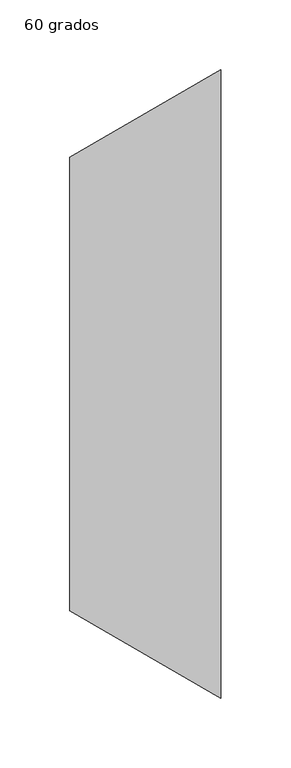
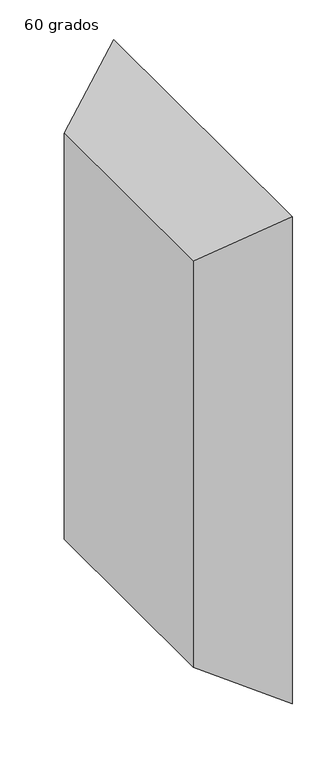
"""IFC4 building model written with IfcOpenShell, lengths in millimetres: duct fitting geometry, M_Transición rectangular - Ángulo : 60 grados."""

import ifcopenshell
import ifcopenshell.guid

model = None  # the IFC model being written
_history = None  # IfcOwnerHistory: only IFC2X3 demands one
_inside = {}  # id of a spatial element -> (the spatial element, [elements in it])
_under = {}  # id of a project, library or spatial element -> (it, [spatial elements below it])
_declared = {}  # id of a project -> (the project, [libraries it declares])
_typed = {}  # id of a type object -> (the type object, [elements of that type])
_made_of = {}  # id of a material, layer set ... -> (it, [elements and type objects made of it])


def new_model(schema):
    """Start an empty IFC model of exactly this schema.

    Asked for "IFC4X3", IfcOpenShell would pick the latest addendum, in which some entities
    have other attributes; the version numbers below select the first issue.
    IFC2X3 requires an IfcOwnerHistory on every rooted entity: one is made here for all.
    """
    global model, _history
    if schema == "IFC4X3":
        model = ifcopenshell.file(schema_version=(4, 3, 0, 0))
    else:
        model = ifcopenshell.file(schema=schema)
    _inside.clear()
    _under.clear()
    _declared.clear()
    _typed.clear()
    _made_of.clear()
    _history = None
    if model.schema == "IFC2X3":
        org = make("IfcOrganization", Name="unknown")
        user = make(
            "IfcPersonAndOrganization",
            ThePerson=make("IfcPerson", FamilyName="unknown"),
            TheOrganization=org,
        )
        app = make(
            "IfcApplication",
            ApplicationDeveloper=org,
            Version="unknown",
            ApplicationFullName="unknown",
            ApplicationIdentifier="unknown",
        )
        _history = make(
            "IfcOwnerHistory",
            OwningUser=user,
            OwningApplication=app,
            ChangeAction="ADDED",
            CreationDate=0,
        )
    return model


def make(cls, **values):
    """One entity of the class cls with the attributes given. An attribute that is None is left unset."""
    return model.create_entity(
        cls, **{name: value for name, value in values.items() if value is not None}
    )


def rooted(cls, **values):
    """An entity with a GlobalId (a new one), such as an element, a storey or a relation."""
    return make(cls, GlobalId=ifcopenshell.guid.new(), OwnerHistory=_history, **values)


def si_unit(unit_type, name, prefix=None):
    """IfcSIUnit, for example si_unit("LENGTHUNIT", "METRE", prefix="MILLI")."""
    return make("IfcSIUnit", UnitType=unit_type, Prefix=prefix, Name=name)


def assignment(units):
    """IfcUnitAssignment: the units of a project."""
    return None if units is None else make("IfcUnitAssignment", Units=units)


def point(xyz):
    """IfcCartesianPoint."""
    return None if xyz is None else make("IfcCartesianPoint", Coordinates=xyz)


def direction(xyz):
    """IfcDirection."""
    return None if xyz is None else make("IfcDirection", DirectionRatios=xyz)


def frame(location, z_axis=None, x_axis=None):
    """IfcAxis2Placement3D, a coordinate frame: its origin and axes. An axis left out is left unset."""
    return make(
        "IfcAxis2Placement3D",
        Location=point(location),
        Axis=direction(z_axis),
        RefDirection=direction(x_axis),
    )


def origin():
    """The frame at (0, 0, 0) with its axes left unset."""
    return frame((0.0, 0.0, 0.0))


def place(relative_to, where):
    """IfcLocalPlacement: puts the frame where relative to a parent placement (None: the world)."""
    return make(
        "IfcLocalPlacement", PlacementRelTo=relative_to, RelativePlacement=where
    )


def context(
    kind, dimensions, precision=None, world=None, true_north=None, identifier=None
):
    """IfcGeometricRepresentationContext, for example the 3D "Model" context."""
    return make(
        "IfcGeometricRepresentationContext",
        ContextIdentifier=identifier,
        ContextType=kind,
        CoordinateSpaceDimension=dimensions,
        Precision=precision,
        WorldCoordinateSystem=world,
        TrueNorth=true_north,
    )


def project(units=None, contexts=None):
    """IfcProject with its units and contexts."""
    return rooted(
        "IfcProject",
        Name="project",
        RepresentationContexts=contexts,
        UnitsInContext=assignment(units),
    )


def spatial(cls, under=None, at=None, **own):
    """A site, building, storey or space (cls), placed at a placement, below another one or the project."""
    s = rooted(cls, ObjectPlacement=at, **own)
    if under is not None:
        _under.setdefault(under.id(), (under, []))[1].append(s)
    return s


def faces_of(points, faces, orient=None, outer=None):
    """IfcFace entities. A face is a list of loops; a loop is a list of indices into points, from 0.

    orient and outer hold one flag for each loop. By default every Orientation is true, the
    first loop of a face is its IfcFaceOuterBound and the others are IfcFaceBound.
    """
    made = []
    for i, loops in enumerate(faces):
        bounds = []
        for j, loop in enumerate(loops):
            is_outer = j == 0 if outer is None else outer[i][j]
            bounds.append(
                make(
                    "IfcFaceOuterBound" if is_outer else "IfcFaceBound",
                    Bound=make("IfcPolyLoop", Polygon=[points[k] for k in loop]),
                    Orientation=True if orient is None else orient[i][j],
                )
            )
        made.append(make("IfcFace", Bounds=bounds))
    return made


def faceted_brep(points, faces, orient=None, outer=None, voids=None):
    """IfcFacetedBrep: a solid bounded by flat faces; with voids (closed shells), ...WithVoids."""
    shared = [point(p) for p in points]
    hull = make("IfcClosedShell", CfsFaces=faces_of(shared, faces, orient, outer))
    if voids is None:
        return make("IfcFacetedBrep", Outer=hull)
    return make(
        "IfcFacetedBrepWithVoids",
        Outer=hull,
        Voids=[
            make(cls, CfsFaces=faces_of(shared, fs, o, b)) for cls, fs, o, b in voids
        ],
    )


def shape(context_of_items, identifier, shape_type, items):
    """IfcShapeRepresentation: the items that make up one representation, for example the "Body"."""
    return make(
        "IfcShapeRepresentation",
        ContextOfItems=context_of_items,
        RepresentationIdentifier=identifier,
        RepresentationType=shape_type,
        Items=items,
    )


def source(mapping_origin, context_of_items, identifier, shape_type, items):
    """IfcRepresentationMap: a shape defined once, which mapped items show again and again."""
    return make(
        "IfcRepresentationMap",
        MappingOrigin=mapping_origin,
        MappedRepresentation=shape(context_of_items, identifier, shape_type, items),
    )


def transform(
    local_origin,
    x_axis=None,
    y_axis=None,
    z_axis=None,
    scale=None,
    scale2=None,
    scale3=None,
    uniform=True,
):
    """IfcCartesianTransformationOperator3D, or its non-uniform kind. x_axis, y_axis, z_axis: its Axis1, 2, 3."""
    if uniform:
        return make(
            "IfcCartesianTransformationOperator3D",
            Axis1=direction(x_axis),
            Axis2=direction(y_axis),
            LocalOrigin=point(local_origin),
            Scale=scale,
            Axis3=direction(z_axis),
        )
    return make(
        "IfcCartesianTransformationOperator3DnonUniform",
        Axis1=direction(x_axis),
        Axis2=direction(y_axis),
        LocalOrigin=point(local_origin),
        Scale=scale,
        Axis3=direction(z_axis),
        Scale2=scale2,
        Scale3=scale3,
    )


def mapped(mapping_source, mapping_target):
    """IfcMappedItem: shows the shape of a source again, moved by a transform."""
    return make(
        "IfcMappedItem", MappingSource=mapping_source, MappingTarget=mapping_target
    )


def made_of(thing, what):
    """Note that an element or type object is made of a material, layer set ...; save() writes the relation."""
    if what is not None:
        _made_of.setdefault(what.id(), (what, []))[1].append(thing)
    return thing


def element(
    cls,
    number,
    at=None,
    inside=None,
    cuts=None,
    type_object=None,
    material=None,
    context=None,
    identifier="Body",
    shape_type=None,
    held_by="IfcProductDefinitionShape",
    body=None,
    shapes=None,
    **own,
):
    """One element of the class cls, such as IfcWall. Its Tag is "e" and its number.

    at: its placement. inside: the storey or other place that contains it. cuts: it is an
    opening in that element (IfcRelVoidsElement). A single representation is given by context,
    identifier, shape_type and body (its items); several are given by shapes. held_by: the class
    of the entity that holds the representations. save() writes the other relations.
    """
    e = rooted(cls, Tag="e%d" % number, ObjectPlacement=at, **own)
    if body is not None:
        shapes = [shape(context, identifier, shape_type, body)]
    if shapes is not None:
        e.Representation = make(held_by, Representations=shapes)
    if inside is not None:
        _inside.setdefault(inside.id(), (inside, []))[1].append(e)
    if cuts is not None:
        rooted(
            "IfcRelVoidsElement", RelatingBuildingElement=cuts, RelatedOpeningElement=e
        )
    if type_object is not None:
        _typed.setdefault(type_object.id(), (type_object, []))[1].append(e)
    return made_of(e, material)


def aggregate(whole, parts):
    """IfcRelAggregates: a whole, such as a stair, and the parts it consists of."""
    return rooted("IfcRelAggregates", RelatingObject=whole, RelatedObjects=parts)


def save(model, path):
    """Write the relations noted so far, then the file.

    IfcRelAggregates (storeys below a building ...), IfcRelContainedInSpatialStructure (elements
    in a storey), IfcRelDefinesByType, IfcRelAssociatesMaterial and IfcRelDeclares: one each for
    every whole, place, type object, material and project.
    """
    for whole, parts in _under.values():
        aggregate(whole, parts)
    for where, things in _inside.values():
        rooted(
            "IfcRelContainedInSpatialStructure",
            RelatedElements=things,
            RelatingStructure=where,
        )
    for kind, things in _typed.values():
        rooted("IfcRelDefinesByType", RelatedObjects=things, RelatingType=kind)
    for what, things in _made_of.values():
        rooted("IfcRelAssociatesMaterial", RelatedObjects=things, RelatingMaterial=what)
    for by, libraries in _declared.values():
        rooted("IfcRelDeclares", RelatingContext=by, RelatedDefinitions=libraries)
    model.write(path)


def duct_fitting_60_grados_85235b03(model_context):
    return source(origin(), model_context, "Body", "Brep", [
        faceted_brep([(108.2531755, -225.0, 381.1317663), (108.2531755, -225.0, -368.8682337), (108.2531755, 225.0, -368.8682337), (108.2531755, 225.0, 381.1317663), (0.0, -162.5, 312.5), (0.0, 162.5, 312.5), (0.0, 162.5, -312.5), (0.0, -162.5, -312.5)], [[[0, 1, 2, 3]], [[4, 5, 6, 7]], [[4, 7, 1, 0]], [[7, 6, 2, 1]], [[6, 5, 3, 2]], [[5, 4, 0, 3]]]),
    ])


if __name__ == "__main__":
    model = new_model("IFC4")
    model_context = context("Model", 3, world=origin())
    ifc_project = project(units=[si_unit("LENGTHUNIT", "METRE", prefix="MILLI")], contexts=[model_context])
    site = spatial("IfcSite", under=ifc_project)
    building = spatial("IfcBuilding", under=site)
    placement = place(None, origin())
    duct_fitting_60_grados_shape = duct_fitting_60_grados_85235b03(model_context)
    element("IfcDuctFitting", 1, ObjectType="M_Transición rectangular - Ángulo : 60 grados", at=placement, inside=building, context=model_context, shape_type="MappedRepresentation", body=[
        mapped(duct_fitting_60_grados_shape, transform((0.0, 0.0, 0.0), x_axis=(1.0, 0.0, 0.0), y_axis=(0.0, 1.0, 0.0), z_axis=(0.0, 0.0, 1.0))),
    ])
    save(model, "model.ifc")
